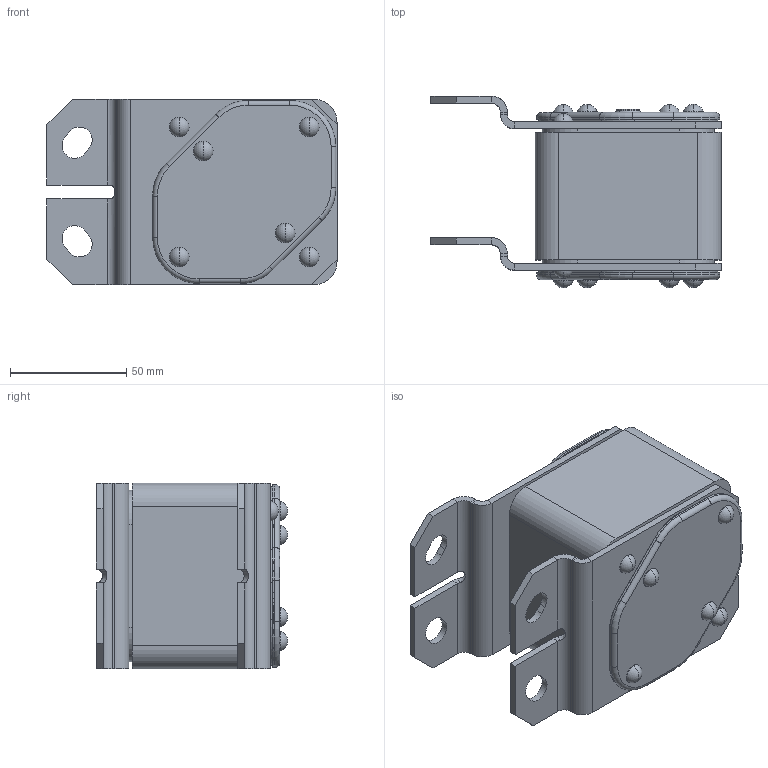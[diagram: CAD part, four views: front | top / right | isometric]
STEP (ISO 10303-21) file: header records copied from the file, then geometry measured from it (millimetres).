
FILE_DESCRIPTION (( 'STEP AP214' ), '1' );
FILE_NAME ('砎槼隰譇膻蠈錪 珫57-40380-XXXA-XXXX-忡曖.STEP', '2023-05-16T12:02:49', ( '' ), ( '' ), 'SwSTEP 2.0', 'SolidWorks 2018', '' );
FILE_SCHEMA (( 'AUTOMOTIVE_DESIGN' ));
Length unit declared in the file: millimetre
Products named in the file (1): 砎槼隰譇膻蠈錪 珫57-40380-XXXA-XXXX-忡曖
Bounding box: 125 x 82.5 x 80 mm (x, y, z)
Volume: 448858.1 mm3; surface area: 66172.2 mm2
Topology: 1 solids, 19 shells, 475 faces, 1104 edges, 696 vertices
Faces by surface type: plane 187, cylinder 180, torus 48, cone 34, sphere 24, bspline 2
Entity records: 19255 total; most frequent: CARTESIAN_POINT 2676, DIRECTION 2584, ORIENTED_EDGE 2208, EDGE_CURVE 1104, AXIS2_PLACEMENT_3D 1022, VERTEX_POINT 696, CIRCLE 548, VECTOR 540
